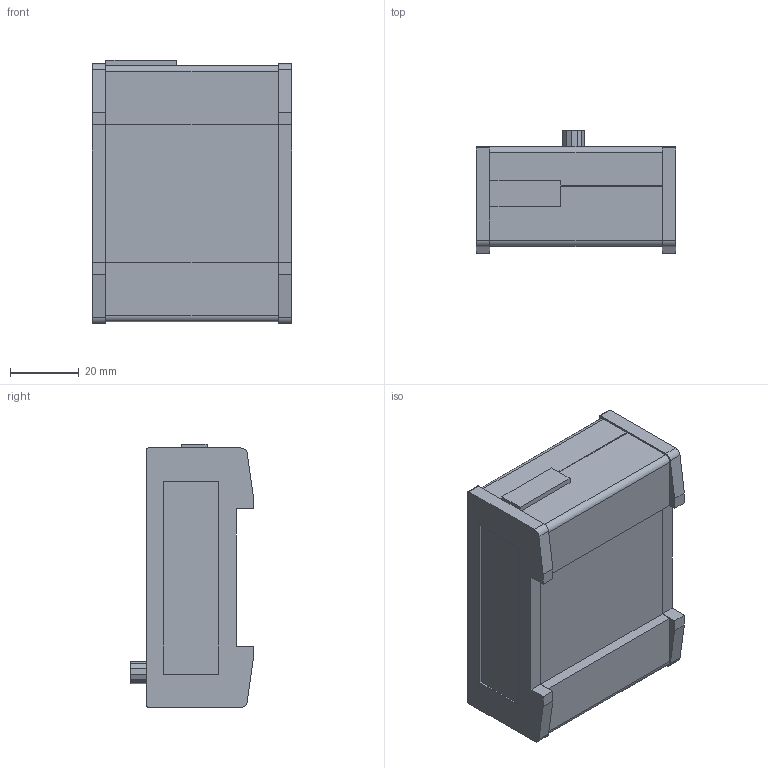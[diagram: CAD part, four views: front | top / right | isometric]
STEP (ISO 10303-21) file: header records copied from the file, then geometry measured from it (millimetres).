
FILE_DESCRIPTION (( 'STEP AP214' ), '1' );
FILE_NAME ('VSCF_700-875-WIF51_V00-01.STEP', '2024-03-27T14:02:43', ( '' ), ( '' ), 'SwSTEP 2.0', 'SolidWorks 2023', '' );
FILE_SCHEMA (( 'AUTOMOTIVE_DESIGN' ));
Length unit declared in the file: millimetre
Products named in the file (1): VSCF_700-875-WIF51_V00-01
Bounding box: 58 x 35.65 x 76.4 mm (x, y, z)
Volume: 109947.7 mm3; surface area: 19867.7 mm2
Topology: 14 solids, 14 shells, 431 faces, 1130 edges, 752 vertices
Faces by surface type: plane 359, bspline 60, cylinder 12
Entity records: 19019 total; most frequent: CARTESIAN_POINT 5950, ORIENTED_EDGE 2260, DIRECTION 1778, EDGE_CURVE 1130, VECTOR 986, LINE 986, VERTEX_POINT 752, EDGE_LOOP 464
